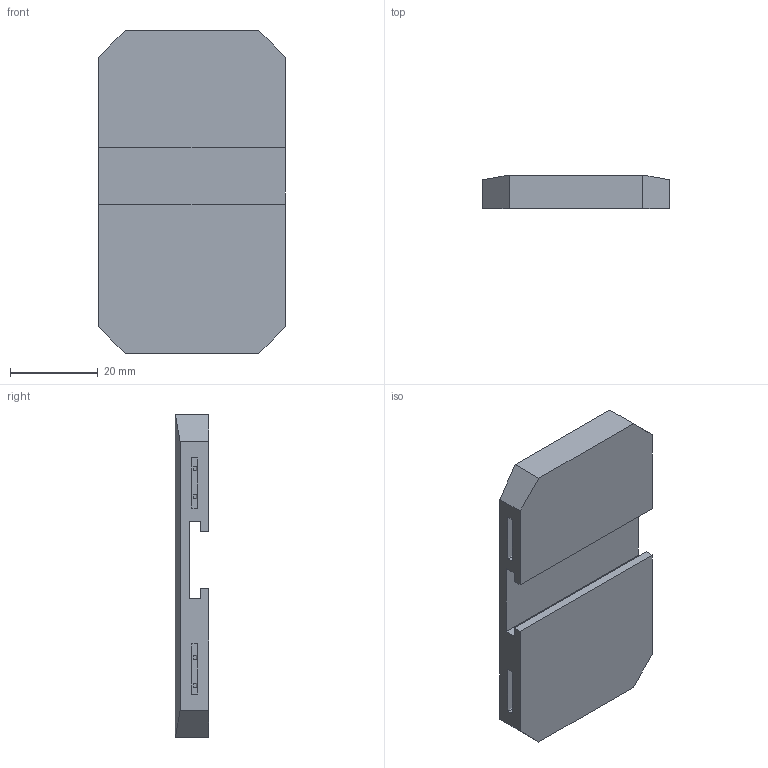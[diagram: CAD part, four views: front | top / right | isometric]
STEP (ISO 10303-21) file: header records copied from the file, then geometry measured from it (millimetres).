
FILE_DESCRIPTION(/* description */ (''),/* implementation_level */ '2;1');
FILE_NAME(/* name */ 'tf',/* time_stamp */ '2023-02-14T16:27:06+08:00',/* author */ (''),/* organization */ (''),/* preprocessor_version */ 'ST-DEVELOPER v16.5',/* originating_system */ '',/* authorisation */ '');
FILE_SCHEMA (('AUTOMOTIVE_DESIGN'));
Length unit declared in the file: millimetre
Products named in the file (1): Document
Bounding box: 42.68 x 7.64 x 73.83 mm (x, y, z)
Volume: 19280.1 mm3; surface area: 9977.5 mm2
Topology: 1 solids, 1 shells, 81 faces, 221 edges, 146 vertices
Faces by surface type: plane 73, bspline 8
Entity records: 3023 total; most frequent: CARTESIAN_POINT 1481, ORIENTED_EDGE 442, EDGE_CURVE 221, B_SPLINE_CURVE_WITH_KNOTS 221, VERTEX_POINT 146, EDGE_LOOP 85, ADVANCED_FACE 81, FACE_OUTER_BOUND 81
